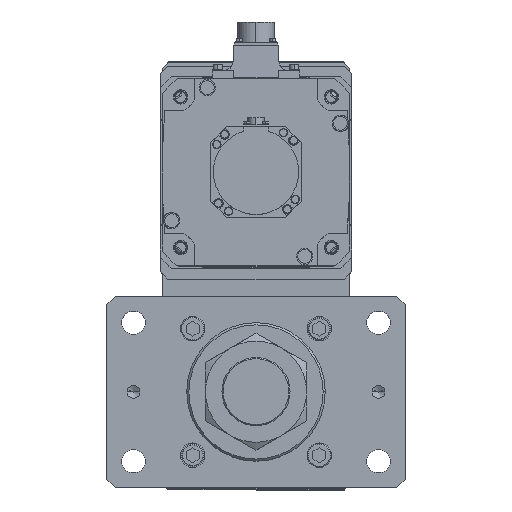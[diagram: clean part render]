
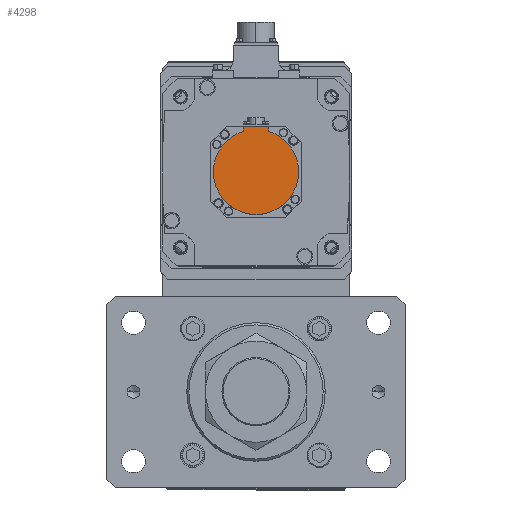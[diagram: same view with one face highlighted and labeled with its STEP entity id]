
A CAD part, top view. The second image highlights one B-rep face of the part: STEP entity #4298.
In plain terms, the highlighted planar face has unit normal (0, 0, 1) as drawn and (0, 0, -1) by its records, which use the part's own axes.
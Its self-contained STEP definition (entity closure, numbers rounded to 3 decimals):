
#382 = CIRCLE ( 'NONE', #16214, 40. ) ;
#1003 = DIRECTION ( 'NONE',  ( 0., 0., 1. ) ) ;
#1352 = CARTESIAN_POINT ( 'NONE',  ( 0., -1.249, -178.5 ) ) ;
#2534 = CARTESIAN_POINT ( 'NONE',  ( 40., 0., -178.5 ) ) ;
#3593 = VERTEX_POINT ( 'NONE', #42172 ) ;
#4236 = EDGE_CURVE ( 'NONE', #19263, #33840, #382, .T. ) ;
#4298 = ADVANCED_FACE ( 'NONE', ( #13066 ), #5098, .F. ) ;
#4546 = CARTESIAN_POINT ( 'NONE',  ( 0., 0., -178.5 ) ) ;
#5098 = PLANE ( 'NONE',  #21684 ) ;
#5135 = DIRECTION ( 'NONE',  ( 0., 1., 0. ) ) ;
#7094 = EDGE_CURVE ( 'NONE', #33840, #15714, #22941, .T. ) ;
#7402 = ORIENTED_EDGE ( 'NONE', *, *, #7094, .F. ) ;
#7513 = LINE ( 'NONE', #47840, #41806 ) ;
#8508 = DIRECTION ( 'NONE',  ( -1., 0., 0. ) ) ;
#9185 = CARTESIAN_POINT ( 'NONE',  ( 0., 0., -178.5 ) ) ;
#10545 = VERTEX_POINT ( 'NONE', #35509 ) ;
#10698 = AXIS2_PLACEMENT_3D ( 'NONE', #4546, #24768, #40912 ) ;
#11005 = VECTOR ( 'NONE', #8508, 1000. ) ;
#11634 = EDGE_CURVE ( 'NONE', #3593, #19263, #28955, .T. ) ;
#11990 = ORIENTED_EDGE ( 'NONE', *, *, #4236, .F. ) ;
#13066 = FACE_OUTER_BOUND ( 'NONE', #52233, .T. ) ;
#13490 = EDGE_CURVE ( 'NONE', #10545, #3593, #18083, .T. ) ;
#14690 = EDGE_CURVE ( 'NONE', #10545, #43210, #34456, .T. ) ;
#15714 = VERTEX_POINT ( 'NONE', #39795 ) ;
#15956 = AXIS2_PLACEMENT_3D ( 'NONE', #44270, #32189, #40342 ) ;
#16214 = AXIS2_PLACEMENT_3D ( 'NONE', #9185, #1003, #33109 ) ;
#17006 = CARTESIAN_POINT ( 'NONE',  ( 12., -1.249, -178.5 ) ) ;
#18083 = LINE ( 'NONE', #17006, #26984 ) ;
#18098 = ORIENTED_EDGE ( 'NONE', *, *, #14690, .T. ) ;
#19263 = VERTEX_POINT ( 'NONE', #2534 ) ;
#19514 = CARTESIAN_POINT ( 'NONE',  ( -40., 0., -178.5 ) ) ;
#21684 = AXIS2_PLACEMENT_3D ( 'NONE', #1352, #37372, #41293 ) ;
#22941 = CIRCLE ( 'NONE', #15956, 40. ) ;
#23051 = ORIENTED_EDGE ( 'NONE', *, *, #41385, .T. ) ;
#24768 = DIRECTION ( 'NONE',  ( 0., 0., 1. ) ) ;
#25952 = CARTESIAN_POINT ( 'NONE',  ( -12., -42.5, -178.5 ) ) ;
#26984 = VECTOR ( 'NONE', #5135, 1000. ) ;
#28955 = CIRCLE ( 'NONE', #10698, 40. ) ;
#29383 = ORIENTED_EDGE ( 'NONE', *, *, #13490, .F. ) ;
#32189 = DIRECTION ( 'NONE',  ( 0., 0., 1. ) ) ;
#33109 = DIRECTION ( 'NONE',  ( 1., 0., 0. ) ) ;
#33840 = VERTEX_POINT ( 'NONE', #19514 ) ;
#34456 = LINE ( 'NONE', #37054, #11005 ) ;
#35509 = CARTESIAN_POINT ( 'NONE',  ( 12., -42.5, -178.5 ) ) ;
#37054 = CARTESIAN_POINT ( 'NONE',  ( 0., -42.5, -178.5 ) ) ;
#37372 = DIRECTION ( 'NONE',  ( 0., 0., 1. ) ) ;
#39795 = CARTESIAN_POINT ( 'NONE',  ( -12., -38.158, -178.5 ) ) ;
#40342 = DIRECTION ( 'NONE',  ( 1., 0., 0. ) ) ;
#40912 = DIRECTION ( 'NONE',  ( 1., 0., 0. ) ) ;
#41293 = DIRECTION ( 'NONE',  ( 1., 0., 0. ) ) ;
#41385 = EDGE_CURVE ( 'NONE', #43210, #15714, #7513, .T. ) ;
#41806 = VECTOR ( 'NONE', #43257, 1000. ) ;
#42172 = CARTESIAN_POINT ( 'NONE',  ( 12., -38.158, -178.5 ) ) ;
#43210 = VERTEX_POINT ( 'NONE', #25952 ) ;
#43257 = DIRECTION ( 'NONE',  ( 0., 1., 0. ) ) ;
#44270 = CARTESIAN_POINT ( 'NONE',  ( 0., 0., -178.5 ) ) ;
#47840 = CARTESIAN_POINT ( 'NONE',  ( -12., -40.329, -178.5 ) ) ;
#49532 = ORIENTED_EDGE ( 'NONE', *, *, #11634, .F. ) ;
#52233 = EDGE_LOOP ( 'NONE', ( #23051, #7402, #11990, #49532, #29383, #18098 ) ) ;
